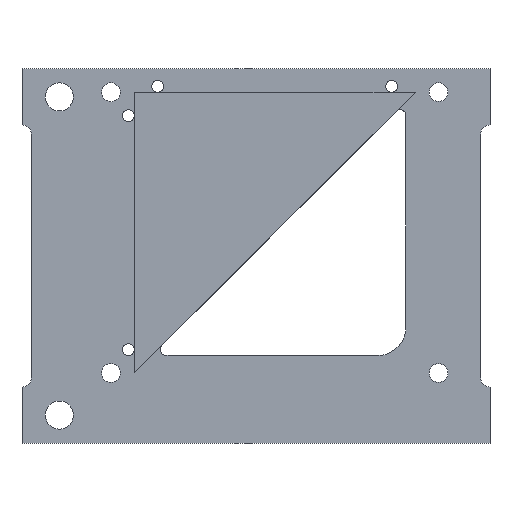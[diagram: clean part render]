
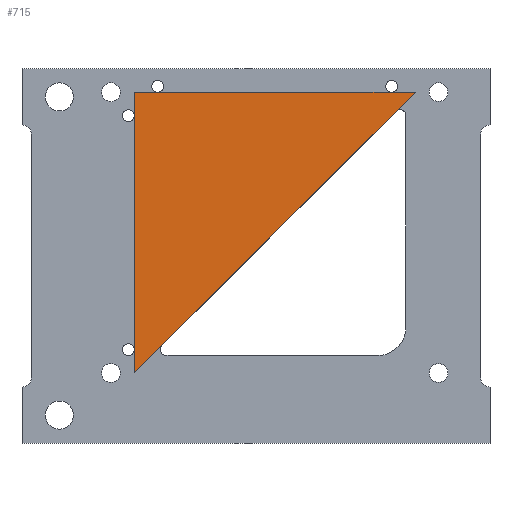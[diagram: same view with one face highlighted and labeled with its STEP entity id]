
A CAD part, front view. The second image highlights one B-rep face of the part: STEP entity #715.
In plain terms, the highlighted planar face has unit normal (0, -1, 0).
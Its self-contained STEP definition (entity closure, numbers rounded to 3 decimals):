
#48=PLANE('',#800);
#81=FACE_OUTER_BOUND('',#132,.T.);
#132=EDGE_LOOP('',(#663,#664,#665));
#190=LINE('',#1198,#253);
#192=LINE('',#1202,#255);
#195=LINE('',#1206,#258);
#253=VECTOR('',#994,10.);
#255=VECTOR('',#998,10.);
#258=VECTOR('',#1003,10.);
#360=VERTEX_POINT('',#1195);
#361=VERTEX_POINT('',#1197);
#362=VERTEX_POINT('',#1201);
#458=EDGE_CURVE('',#361,#360,#190,.T.);
#460=EDGE_CURVE('',#362,#361,#192,.T.);
#463=EDGE_CURVE('',#360,#362,#195,.T.);
#663=ORIENTED_EDGE('',*,*,#463,.T.);
#664=ORIENTED_EDGE('',*,*,#460,.T.);
#665=ORIENTED_EDGE('',*,*,#458,.T.);
#715=ADVANCED_FACE('',(#81),#48,.T.);
#800=AXIS2_PLACEMENT_3D('',#1208,#1006,#1007);
#994=DIRECTION('',(-1.,0.,0.));
#998=DIRECTION('',(0.707,0.,0.707));
#1003=DIRECTION('',(0.,0.,-1.));
#1006=DIRECTION('center_axis',(0.,-1.,0.));
#1007=DIRECTION('ref_axis',(0.,0.,-1.));
#1195=CARTESIAN_POINT('',(-15.,-5.6,15.));
#1197=CARTESIAN_POINT('',(15.,-5.6,15.));
#1198=CARTESIAN_POINT('',(-15.,-5.6,15.));
#1201=CARTESIAN_POINT('',(-15.,-5.6,-15.));
#1202=CARTESIAN_POINT('',(15.,-5.6,15.));
#1206=CARTESIAN_POINT('',(-15.,-5.6,-15.));
#1208=CARTESIAN_POINT('Origin',(0.,-5.6,0.));
